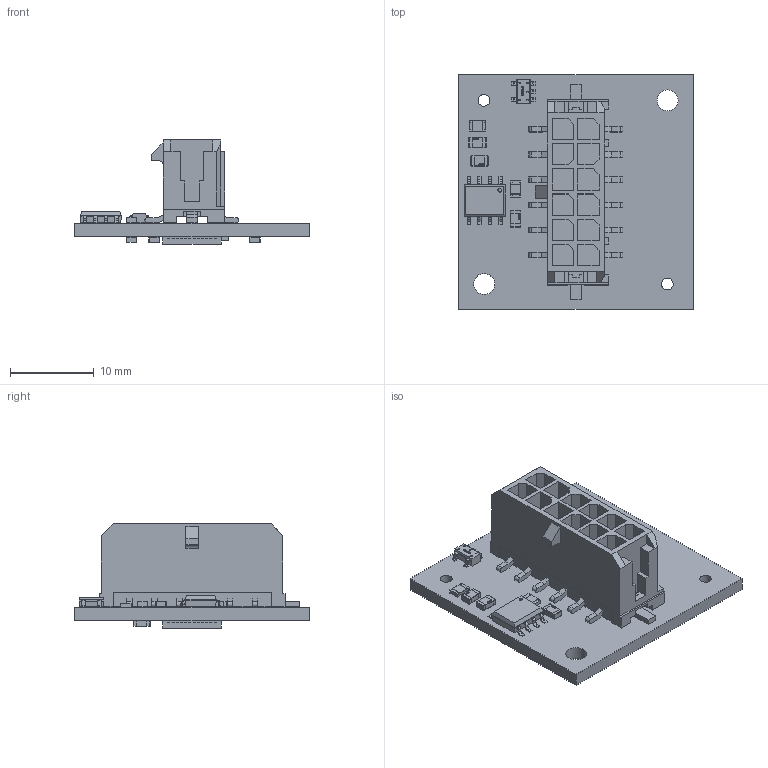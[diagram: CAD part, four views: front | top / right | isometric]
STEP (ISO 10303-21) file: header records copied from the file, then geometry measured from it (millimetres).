
FILE_DESCRIPTION(('Open CASCADE Model'),'2;1');
FILE_NAME('Open CASCADE Shape Model','2021-07-28T08:44:01',('Author'),( 'Open CASCADE'),'Open CASCADE STEP processor 6.8','Open CASCADE 6.8' ,'Unknown');
FILE_SCHEMA(('AUTOMOTIVE_DESIGN { 1 0 10303 214 1 1 1 1 }'));
Length unit declared in the file: millimetre
Products named in the file (28): PCB; Board; Designator4; 430451219; Open CASCADE STEP translator 6.8 4.2.1.1; Open CASCADE STEP translator 6.8 4.2.1.2; R4; SW3dPS-R0805; R3; R2; R1; L1; IC4; SW3DPS-SO-8-DEFAULT; IC2; SW3dPS-SOT23-5; SW3dPS-SOT23-5_SOT23-5_Connector; SW3dPS-SOT23-5_SOT23-5_Body; IC1; QFN48_7x7; C8; C0805; C7; C6; C4; C3; C2; C1
Assembly tree (41 placements, depth 4):
  PCB
    Board
    Designator4
      430451219
        Open CASCADE STEP translator 6.8 4.2.1.1
        Open CASCADE STEP translator 6.8 4.2.1.2
    R4
      SW3dPS-R0805
    R3
      SW3dPS-R0805
    R2
      SW3dPS-R0805
    R1
      SW3dPS-R0805
    L1
      SW3dPS-R0805
    IC4
      SW3DPS-SO-8-DEFAULT
    IC2
      SW3dPS-SOT23-5
        SW3dPS-SOT23-5_SOT23-5_Connector  x5
        SW3dPS-SOT23-5_SOT23-5_Body
    IC1
      QFN48_7x7
    C8
      C0805
    C7
      C0805
    C6
      C0805
    C4
      C0805
    C3
      C0805
    C2
      C0805
    C1
      C0805
Bounding box: 28 x 28 x 12.44 mm (x, y, z)
Volume: 2185.9 mm3; surface area: 4006 mm2
Topology: 36 solids, 36 shells, 2129 faces, 5753 edges, 3804 vertices
Faces by surface type: plane 1314, bspline 499, cylinder 316
Full cylindrical faces by diameter (mm): 1.4 x2, 2.5 x2
Entity records: 51079 total; most frequent: CARTESIAN_POINT 16575, ORIENTED_EDGE 6612, DIRECTION 5625, EDGE_CURVE 3306, LINE 2749, VECTOR 2749, VERTEX_POINT 2182, AXIS2_PLACEMENT_3D 1438
